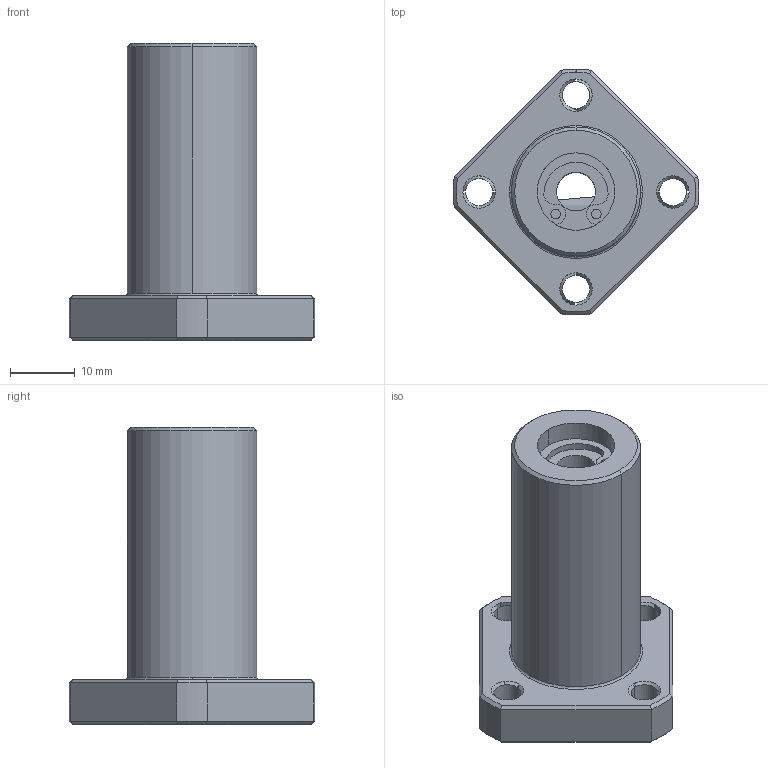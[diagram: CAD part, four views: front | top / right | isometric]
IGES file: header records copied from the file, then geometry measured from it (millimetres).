
Start section: 3D InterOp IGES (Version 21 0 1), Spatial Corp. Copyright (c) 1999-2007.
Global section: file name: LCF-6AVUU.igs; native system: Spatial Corp.; preprocessor: 3D InterOp GENERIC/IGES 3.0; author: Noname; organization: Noname; date: 20220517.163201; units: millimetre
Bounding box: 37.97 x 37.98 x 46 mm (x, y, z)
Surface area: 6122.5 mm2 (no closed solid volume)
Topology: 0 solids, 0 shells, 107 faces, 512 edges, 512 vertices
Faces by surface type: revolution 79, extrusion 28
